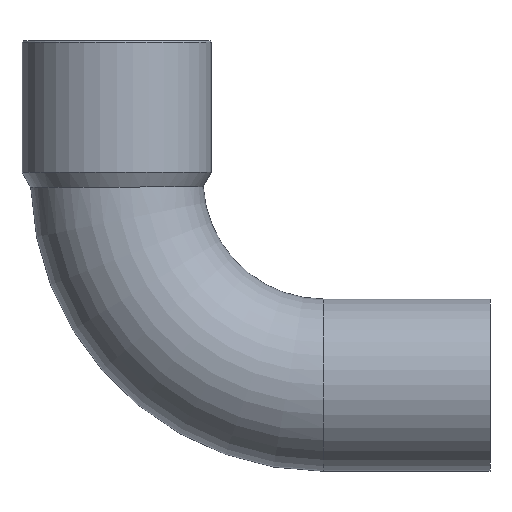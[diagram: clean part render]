
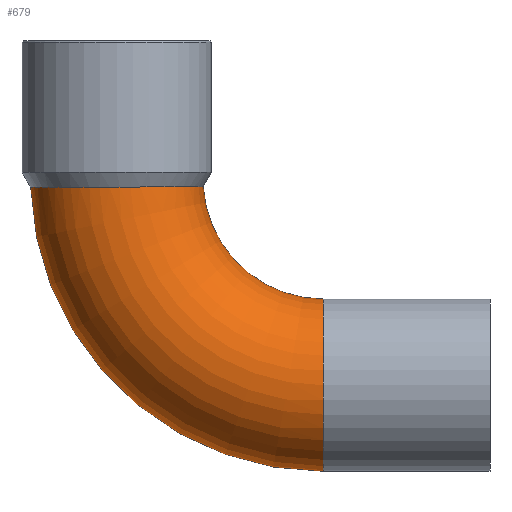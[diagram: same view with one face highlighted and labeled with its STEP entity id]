
A CAD part, front view. The second image highlights one B-rep face of the part: STEP entity #679.
In plain terms, the highlighted toroidal (fillet/blend) face has major radius 14.4 mm and minor radius 6 mm.
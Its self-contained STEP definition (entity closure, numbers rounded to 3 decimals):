
#49=CARTESIAN_POINT('',(1.644,0.,-0.616));
#50=VERTEX_POINT('',#49);
#51=CARTESIAN_POINT('',(22.035,0.,-20.4));
#52=VERTEX_POINT('',#51);
#53=CARTESIAN_POINT('',(22.035,0.,0.0));
#54=DIRECTION('',(0.0,-1.0,0.0));
#55=DIRECTION('',(0.0,0.0,-1.0));
#56=AXIS2_PLACEMENT_3D('',#53,#54,#55);
#57=CIRCLE('',#56,20.4);
#58=EDGE_CURVE('',#50,#52,#57,.T.);
#60=CARTESIAN_POINT('',(13.654,0.,-0.567));
#61=VERTEX_POINT('',#60);
#85=CARTESIAN_POINT('',(22.035,0.,-8.4));
#86=VERTEX_POINT('',#85);
#87=CARTESIAN_POINT('',(22.035,0.,0.0));
#88=DIRECTION('',(0.0,1.0,0.0));
#89=DIRECTION('',(0.0,0.0,-1.0));
#90=AXIS2_PLACEMENT_3D('',#87,#88,#89);
#91=CIRCLE('',#90,8.4);
#92=EDGE_CURVE('',#86,#61,#91,.T.);
#210=CARTESIAN_POINT('',(13.654,0.,-0.567));
#211=CARTESIAN_POINT('',(13.654,-0.052,-0.567));
#212=CARTESIAN_POINT('',(13.654,-0.104,-0.567));
#213=CARTESIAN_POINT('',(13.632,-0.936,-0.567));
#214=CARTESIAN_POINT('',(13.459,-1.705,-0.569));
#215=CARTESIAN_POINT('',(12.828,-3.135,-0.573));
#216=CARTESIAN_POINT('',(12.375,-3.782,-0.577));
#217=CARTESIAN_POINT('',(11.247,-4.866,-0.584));
#218=CARTESIAN_POINT('',(10.582,-5.293,-0.587));
#219=CARTESIAN_POINT('',(9.127,-5.867,-0.594));
#220=CARTESIAN_POINT('',(8.35,-6.01,-0.597));
#221=CARTESIAN_POINT('',(6.785,-5.989,-0.603));
#222=CARTESIAN_POINT('',(6.013,-5.826,-0.605));
#223=CARTESIAN_POINT('',(4.575,-5.213,-0.609));
#224=CARTESIAN_POINT('',(3.922,-4.77,-0.611));
#225=CARTESIAN_POINT('',(2.825,-3.658,-0.614));
#226=CARTESIAN_POINT('',(2.39,-3.,-0.615));
#227=CARTESIAN_POINT('',(1.797,-1.555,-0.616));
#228=CARTESIAN_POINT('',(1.644,-0.781,-0.616));
#229=CARTESIAN_POINT('',(1.644,0.,-0.616));
#230=B_SPLINE_CURVE_WITH_KNOTS('',3,(#210,#211,#212,#213,#214,#215,#216,#217,#218,#219,#220,#221,#222,#223,#224,#225,#226,#227,#228,#229),.UNSPECIFIED.,.F.,.U.,(4,2,2,2,2,2,2,2,2,4),(-1.892,-1.876,-1.642,-1.407,-1.172,-0.938,-0.703,-0.469,-0.234,0.0),.UNSPECIFIED.);
#231=EDGE_CURVE('',#61,#50,#230,.T.);
#535=CARTESIAN_POINT('',(22.035,0.,-14.4));
#536=DIRECTION('',(-1.0,0.0,0.0));
#537=DIRECTION('',(0.0,0.0,-1.0));
#538=AXIS2_PLACEMENT_3D('',#535,#536,#537);
#539=CIRCLE('',#538,6.);
#540=EDGE_CURVE('',#52,#86,#539,.T.);
#668=CARTESIAN_POINT('',(22.035,0.,0.0));
#669=DIRECTION('',(0.0,-1.0,0.0));
#670=DIRECTION('',(0.0,0.0,-1.0));
#671=AXIS2_PLACEMENT_3D('',#668,#669,#670);
#672=TOROIDAL_SURFACE('',#671,14.4,6.);
#673=ORIENTED_EDGE('',*,*,#58,.T.);
#674=ORIENTED_EDGE('',*,*,#540,.T.);
#675=ORIENTED_EDGE('',*,*,#92,.T.);
#676=ORIENTED_EDGE('',*,*,#231,.T.);
#677=EDGE_LOOP('',(#673,#674,#675,#676));
#678=FACE_OUTER_BOUND('',#677,.T.);
#679=ADVANCED_FACE('',(#678),#672,.T.);
